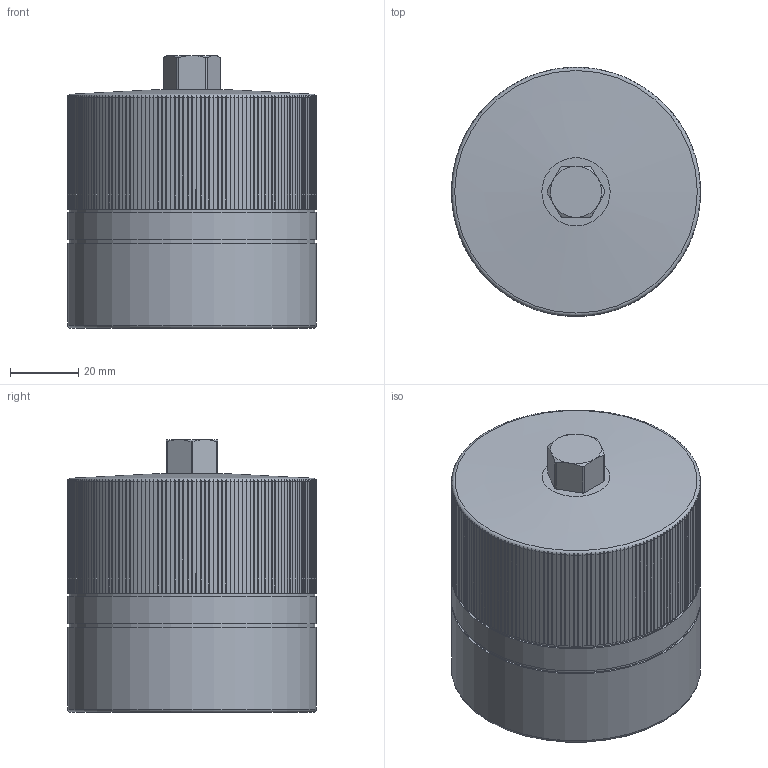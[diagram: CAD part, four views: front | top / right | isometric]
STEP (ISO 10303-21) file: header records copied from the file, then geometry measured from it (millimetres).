
FILE_DESCRIPTION( ( 'Unknown' ), '1' );
FILE_NAME( 'F:/JAKOB-STEP+IGES-Dateien/STEP-Dateien/MCA/MCA 100 - M20.stp', 'Unknown', ( 'Unknown' ), ( 'Unknown' ), 'XStep 1.0', 'Unknown', ' ' );
FILE_SCHEMA( ( 'CONFIG_CONTROL_DESIGN' ) );
Length unit declared in the file: millimetre
Products named in the file (1): 1
Bounding box: 73 x 73 x 80 mm (x, y, z)
Volume: 281453.8 mm3; surface area: 28098.2 mm2
Topology: 1 solids, 1 shells, 397 faces, 1155 edges, 767 vertices
Faces by surface type: cylinder 371, plane 15, cone 9, torus 2
Full cylindrical faces by diameter (mm): 17.5 x1, 72 x2, 73 x2
Entity records: 16120 total; most frequent: CARTESIAN_POINT 5436, DIRECTION 2322, ORIENTED_EDGE 2288, EDGE_CURVE 1144, AXIS2_PLACEMENT_3D 972, VERTEX_POINT 766, CIRCLE 574, EDGE_LOOP 414
